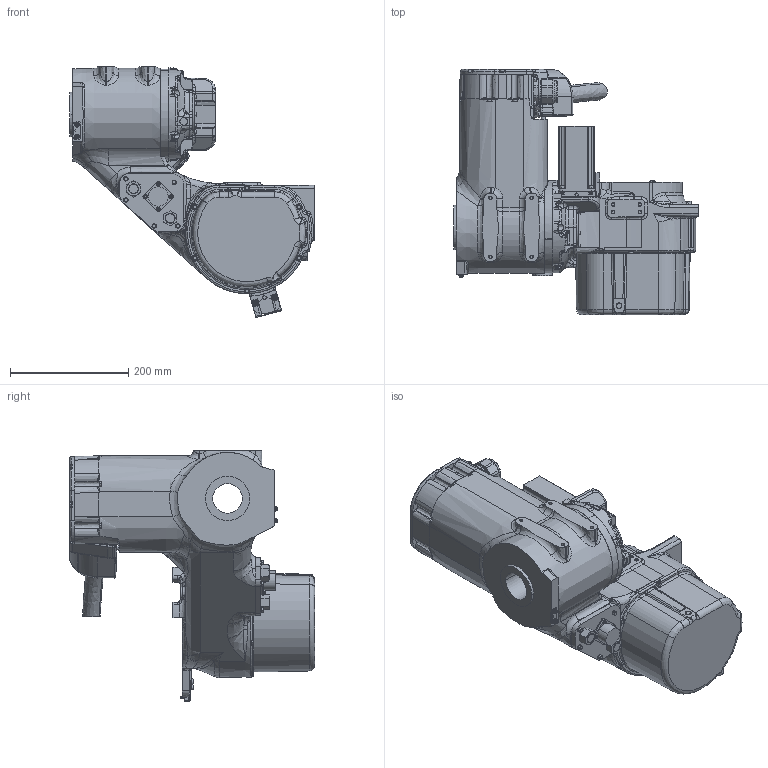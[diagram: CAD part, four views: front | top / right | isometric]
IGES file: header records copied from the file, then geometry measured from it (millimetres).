
Start section:  PTC IGES file: gp25-c00_u-axis.igs
Global section: file name: gp25-c00_u-axis.igs; native system: Creo Parametric by Parametric Technology Corporation; preprocessor: 2015030; author: ip-naka; organization: Unknown; date: 20180604.190538; units: millimetre
Bounding box: 414 x 415.3 x 425.19 mm (x, y, z)
Volume: 16542294 mm3; surface area: 721234.4 mm2
Topology: 1 solids, 23 shells, 2558 faces, 6495 edges, 4313 vertices
Faces by surface type: revolution 1346, bspline 1212
